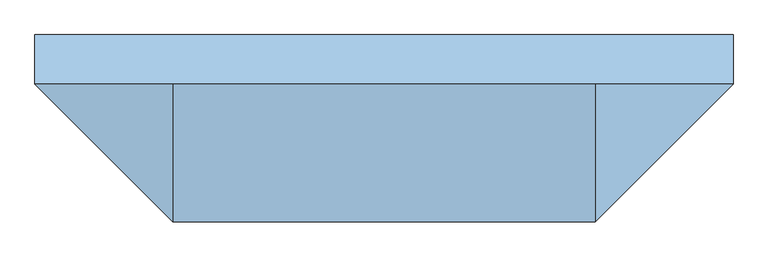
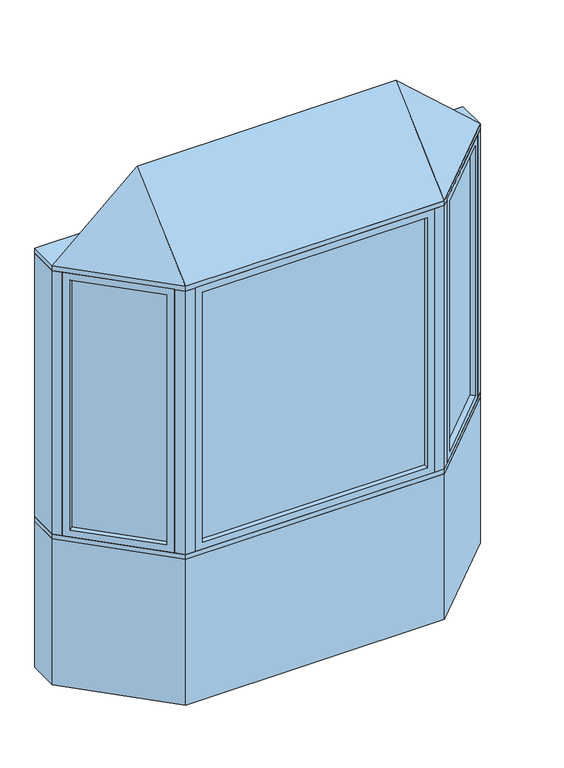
"""IFC4 building model written with IfcOpenShell, lengths in millimetres: window geometry, Pollard_Windows_Tudor Casement Bows and Bays : AML-BAY 45 AFR0614-10-500."""

from ifc_helpers import new_model, si_unit, frame, origin, origin_with_axes, place, context, project, spatial, polyline, outline, extrude, faceted_brep, source, transform, mapped, element, save


def window_daea6f64(model_context):
    return source(origin(), model_context, "Body", "SolidModel", [
        extrude(outline(polyline([(1010.5964271, -104.763169), (684.824814, -430.5347822), (681.2327115, -426.9426797), (1007.0043247, -101.1710666), (1010.5964271, -104.763169)])), frame((0.0, 0.0, 823.1628), z_axis=(0.0, 0.0, 1.0), x_axis=(1.0, 0.0, 0.0)), (0.0, 0.0, 1.0), 1353.6704),
        faceted_brep([(1001.616171, -113.7434252, 835.8628), (1019.5766833, -131.7039374, 835.8628), (1019.5766833, -131.7039374, 2164.1332), (1001.616171, -113.7434252, 2164.1332), (1007.0043247, -101.1710666, 823.1628), (1010.5964271, -104.763169, 823.1628), (1010.5964271, -104.763169, 2176.8332), (1007.0043247, -101.1710666, 2176.8332), (980.0635563, -92.1908105, 835.8628), (998.0240686, -110.1513227, 835.8628), (998.0240686, -110.1513227, 2164.1332), (980.0635563, -92.1908105, 2164.1332), (1044.9369265, -106.3436941, 799.998), (1005.4237996, -66.8305672, 799.998), (1005.4237996, -66.8305672, 2199.998), (1044.9369265, -106.3436941, 2199.998), (711.7655823, -439.5150383, 2164.1332), (693.8050701, -421.5545261, 2164.1332), (684.824814, -430.5347822, 2176.8332), (681.2327115, -426.9426797, 2176.8332), (690.2129677, -417.9624236, 2164.1332), (672.2524554, -400.0019114, 2164.1332), (646.8922121, -425.3621547, 2199.998), (686.4053391, -464.8752816, 2199.998), (711.7655823, -439.5150383, 835.8628), (693.8050701, -421.5545261, 835.8628), (684.824814, -430.5347822, 823.1628), (681.2327115, -426.9426797, 823.1628), (690.2129677, -417.9624236, 835.8628), (672.2524554, -400.0019114, 835.8628), (646.8922121, -425.3621547, 799.998), (686.4053391, -464.8752816, 799.998)], [[[0, 1, 2, 3]], [[4, 5, 6, 7]], [[8, 9, 10, 11]], [[12, 13, 14, 15]], [[3, 2, 16, 17]], [[7, 6, 18, 19]], [[11, 10, 20, 21]], [[15, 14, 22, 23]], [[17, 16, 24, 25]], [[19, 18, 26, 27]], [[21, 20, 28, 29]], [[23, 22, 30, 31]], [[25, 24, 1, 0]], [[5, 26, 18, 6], [3, 17, 25, 0]], [[27, 26, 5, 4]], [[7, 19, 27, 4], [9, 28, 20, 10]], [[29, 28, 9, 8]], [[13, 30, 22, 14], [11, 21, 29, 8]], [[31, 30, 13, 12]], [[15, 23, 31, 12], [1, 24, 16, 2]]]),
        extrude(outline(polyline([(-684.824814, -430.5347822), (-1010.5964271, -104.763169), (-1007.0043247, -101.1710666), (-681.2327115, -426.9426797), (-684.824814, -430.5347822)])), frame((0.0, 0.0, 823.1628), z_axis=(0.0, 0.0, 1.0), x_axis=(1.0, 0.0, 0.0)), (0.0, 0.0, 1.0), 1353.6704),
        faceted_brep([(-690.2129677, -417.9624236, 2164.1332), (-672.2524554, -400.0019114, 2164.1332), (-672.2524554, -400.0019114, 835.8628), (-690.2129677, -417.9624236, 835.8628), (-684.824814, -430.5347822, 2176.8332), (-681.2327115, -426.9426797, 2176.8332), (-681.2327115, -426.9426797, 823.1628), (-684.824814, -430.5347822, 823.1628), (-711.7655823, -439.5150383, 2164.1332), (-693.8050701, -421.5545261, 2164.1332), (-693.8050701, -421.5545261, 835.8628), (-711.7655823, -439.5150383, 835.8628), (-646.8922121, -425.3621547, 2199.998), (-686.4053391, -464.8752816, 2199.998), (-686.4053391, -464.8752816, 799.998), (-646.8922121, -425.3621547, 799.998), (-980.0635563, -92.1908105, 835.8628), (-998.0240686, -110.1513227, 835.8628), (-1007.0043247, -101.1710666, 823.1628), (-1010.5964271, -104.763169, 823.1628), (-1001.616171, -113.7434252, 835.8628), (-1019.5766833, -131.7039374, 835.8628), (-1044.9369265, -106.3436941, 799.998), (-1005.4237996, -66.8305672, 799.998), (-980.0635563, -92.1908105, 2164.1332), (-998.0240686, -110.1513227, 2164.1332), (-1007.0043247, -101.1710666, 2176.8332), (-1010.5964271, -104.763169, 2176.8332), (-1001.616171, -113.7434252, 2164.1332), (-1019.5766833, -131.7039374, 2164.1332), (-1044.9369265, -106.3436941, 2199.998), (-1005.4237996, -66.8305672, 2199.998)], [[[0, 1, 2, 3]], [[4, 5, 6, 7]], [[8, 9, 10, 11]], [[12, 13, 14, 15]], [[3, 2, 16, 17]], [[7, 6, 18, 19]], [[11, 10, 20, 21]], [[15, 14, 22, 23]], [[17, 16, 24, 25]], [[19, 18, 26, 27]], [[21, 20, 28, 29]], [[23, 22, 30, 31]], [[15, 23, 31, 12], [1, 24, 16, 2]], [[25, 24, 1, 0]], [[5, 26, 18, 6], [3, 17, 25, 0]], [[27, 26, 5, 4]], [[7, 19, 27, 4], [9, 28, 20, 10]], [[29, 28, 9, 8]], [[13, 30, 22, 14], [11, 21, 29, 8]], [[31, 30, 13, 12]]]),
        extrude(outline(polyline([(577.8852, -474.8306207), (-577.8852, -474.8306207), (-577.8852, -469.7506207), (577.8852, -469.7506207), (577.8852, -474.8306207)])), frame((0.0, 0.0, 823.1628), z_axis=(0.0, 0.0, 1.0), x_axis=(1.0, 0.0, 0.0)), (0.0, 0.0, 1.0), 1353.6704),
        faceted_brep([(565.1852, -474.8306207, 835.8628), (565.1852, -500.2306207, 835.8628), (565.1852, -500.2306207, 2164.1332), (565.1852, -474.8306207, 2164.1332), (577.8852, -469.7506207, 823.1628), (577.8852, -474.8306207, 823.1628), (577.8852, -474.8306207, 2176.8332), (577.8852, -469.7506207, 2176.8332), (565.1852, -444.3506207, 835.8628), (565.1852, -469.7506207, 835.8628), (565.1852, -469.7506207, 2164.1332), (565.1852, -444.3506207, 2164.1332), (601.05, -500.2306207, 799.998), (601.05, -444.3506207, 799.998), (601.05, -444.3506207, 2199.998), (601.05, -500.2306207, 2199.998), (-565.1852, -500.2306207, 2164.1332), (-565.1852, -474.8306207, 2164.1332), (-577.8852, -474.8306207, 2176.8332), (-577.8852, -469.7506207, 2176.8332), (-565.1852, -469.7506207, 2164.1332), (-565.1852, -444.3506207, 2164.1332), (-601.05, -444.3506207, 2199.998), (-601.05, -500.2306207, 2199.998), (-565.1852, -500.2306207, 835.8628), (-565.1852, -474.8306207, 835.8628), (-577.8852, -474.8306207, 823.1628), (-577.8852, -469.7506207, 823.1628), (-565.1852, -469.7506207, 835.8628), (-565.1852, -444.3506207, 835.8628), (-601.05, -444.3506207, 799.998), (-601.05, -500.2306207, 799.998)], [[[0, 1, 2, 3]], [[4, 5, 6, 7]], [[8, 9, 10, 11]], [[12, 13, 14, 15]], [[3, 2, 16, 17]], [[7, 6, 18, 19]], [[11, 10, 20, 21]], [[15, 14, 22, 23]], [[17, 16, 24, 25]], [[19, 18, 26, 27]], [[21, 20, 28, 29]], [[23, 22, 30, 31]], [[15, 23, 31, 12], [1, 24, 16, 2]], [[25, 24, 1, 0]], [[5, 26, 18, 6], [3, 17, 25, 0]], [[27, 26, 5, 4]], [[7, 19, 27, 4], [9, 28, 20, 10]], [[29, 28, 9, 8]], [[13, 30, 22, 14], [11, 21, 29, 8]], [[31, 30, 13, 12]]]),
        faceted_brep([(1076.5, -74.7806207, 2225.398), (651.05, -500.2306207, 2225.398), (-651.05, -500.2306207, 2225.398), (-1076.5, -74.7806207, 2225.398), (-651.05, -74.7806207, 2606.398), (651.05, -74.7806207, 2606.398)], [[[0, 1, 2, 3]], [[3, 2, 4]], [[2, 1, 5, 4]], [[1, 0, 5]], [[0, 3, 4, 5]]]),
        extrude(outline(polyline([(-1076.5, 77.6193793), (1076.5, 77.6193793), (1076.5, -74.7806207), (651.05, -500.2306207), (-651.05, -500.2306207), (-1076.5, -74.7806207), (-1076.5, 77.6193793)])), frame((0.0, 0.0, 2199.998), z_axis=(0.0, 0.0, 1.0), x_axis=(1.0, 0.0, 0.0)), (0.0, 0.0, 1.0), 25.4),
        extrude(outline(polyline([(-1076.5, -74.7806207), (-1076.5, 77.6193793), (-1013.3738531, 77.6193793), (-1013.3738531, -74.7806207), (-1044.9369265, -106.3436941), (-1076.5, -74.7806207)])), frame((0.0, 0.0, 799.998), z_axis=(0.0, 0.0, 1.0), x_axis=(1.0, 0.0, 0.0)), (0.0, 0.0, 1.0), 1400.0),
        extrude(outline(polyline([(1076.5, 77.6193793), (1076.5, -74.7806207), (1044.9369265, -106.3436941), (1013.3738531, -74.7806207), (1013.3738531, 77.6193793), (1076.5, 77.6193793)])), frame((0.0, 0.0, 799.998), z_axis=(0.0, 0.0, 1.0), x_axis=(1.0, 0.0, 0.0)), (0.0, 0.0, 1.0), 1400.0),
        extrude(outline(polyline([(651.05, -500.2306207), (601.05, -500.2306207), (601.05, -450.2306207), (630.3393219, -450.2306207), (651.05, -429.5199425), (686.4053391, -464.8752816), (651.05, -500.2306207)])), frame((0.0, 0.0, 799.998), z_axis=(0.0, 0.0, 1.0), x_axis=(1.0, 0.0, 0.0)), (0.0, 0.0, 1.0), 1400.0),
        extrude(outline(polyline([(-651.05, -500.2306207), (-686.4053391, -464.8752816), (-651.05, -429.5199425), (-630.3393219, -450.2306207), (-601.05, -450.2306207), (-601.05, -500.2306207), (-651.05, -500.2306207)])), frame((0.0, 0.0, 799.998), z_axis=(0.0, 0.0, 1.0), x_axis=(1.0, 0.0, 0.0)), (0.0, 0.0, 1.0), 1400.0),
        extrude(outline(polyline([(-651.05, -500.2306207), (-1076.5, -74.7806207), (-1076.5, 77.6193793), (-1013.3738531, 77.6193793), (-587.9238531, -347.8306207), (587.9238531, -347.8306207), (1013.3738531, 77.6193793), (1076.5, 77.6193793), (1076.5, -74.7806207), (651.05, -500.2306207), (-651.05, -500.2306207)])), frame((0.0, 0.0, 774.598), z_axis=(0.0, 0.0, 1.0), x_axis=(1.0, 0.0, 0.0)), (0.0, 0.0, 1.0), 25.4),
        extrude(outline(polyline([(-1076.5, -74.7806207), (-1076.5, 77.6193793), (-1013.3738531, 77.6193793), (-587.9238531, -347.8306207), (587.9238531, -347.8306207), (1013.3738531, 77.6193793), (1076.5, 77.6193793), (1076.5, -74.7806207), (651.05, -500.2306207), (-651.05, -500.2306207), (-1076.5, -74.7806207)])), origin_with_axes(), (0.0, 0.0, 1.0), 774.598),
    ])


if __name__ == "__main__":
    model = new_model("IFC4")
    model_context = context("Model", 3, world=origin())
    ifc_project = project(units=[si_unit("LENGTHUNIT", "METRE", prefix="MILLI")], contexts=[model_context])
    site = spatial("IfcSite", under=ifc_project)
    building = spatial("IfcBuilding", under=site)
    placement = place(None, origin())
    window_shape = window_daea6f64(model_context)
    element("IfcWindow", 1, ObjectType="Pollard_Windows_Tudor Casement Bows and Bays : AML-BAY 45 AFR0614-10-500", at=placement, inside=building, context=model_context, shape_type="MappedRepresentation", body=[
        mapped(window_shape, transform((0.0, 0.0, 0.0), x_axis=(1.0, 0.0, 0.0), y_axis=(0.0, 1.0, 0.0), z_axis=(0.0, 0.0, 1.0))),
    ])
    save(model, "model.ifc")
